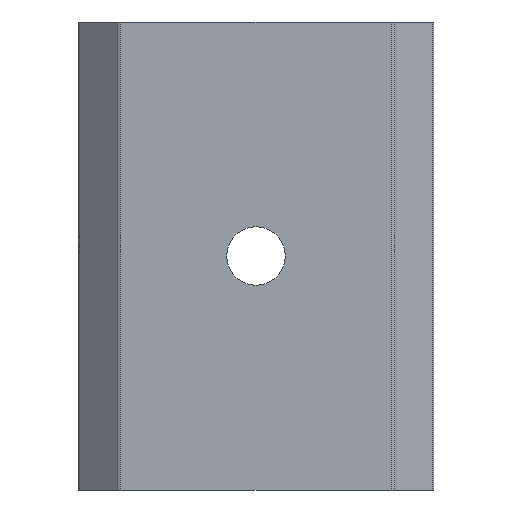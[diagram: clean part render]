
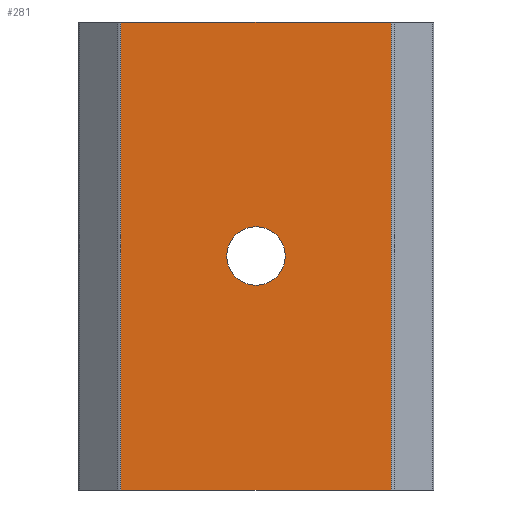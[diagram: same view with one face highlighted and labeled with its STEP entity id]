
A CAD part, left-side view. The second image highlights one B-rep face of the part: STEP entity #281.
In plain terms, the highlighted planar face has unit normal (-1, 0, 0).
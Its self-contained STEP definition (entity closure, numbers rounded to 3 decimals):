
#39 = DIRECTION ( 'NONE',  ( 0., 1., 0. ) ) ;
#40 = CARTESIAN_POINT ( 'NONE',  ( -5.6, 0., 0. ) ) ;
#41 = AXIS2_PLACEMENT_3D ( 'NONE', #409, #79, #81 ) ;
#42 = ORIENTED_EDGE ( 'NONE', *, *, #223, .F. ) ;
#44 = DIRECTION ( 'NONE',  ( 0., -1., 0. ) ) ;
#70 = CARTESIAN_POINT ( 'NONE',  ( -5.6, -11.549, 20. ) ) ;
#79 = DIRECTION ( 'NONE',  ( -1., 0., 0. ) ) ;
#81 = DIRECTION ( 'NONE',  ( 0., 0., 1. ) ) ;
#87 = VERTEX_POINT ( 'NONE', #129 ) ;
#88 = VERTEX_POINT ( 'NONE', #624 ) ;
#119 = EDGE_CURVE ( 'NONE', #267, #398, #162, .T. ) ;
#129 = CARTESIAN_POINT ( 'NONE',  ( -5.6, 0., -2.5 ) ) ;
#138 = VECTOR ( 'NONE', #44, 1000. ) ;
#146 = ORIENTED_EDGE ( 'NONE', *, *, #641, .T. ) ;
#161 = ORIENTED_EDGE ( 'NONE', *, *, #705, .F. ) ;
#162 = LINE ( 'NONE', #461, #585 ) ;
#167 = AXIS2_PLACEMENT_3D ( 'NONE', #40, #703, #696 ) ;
#180 = DIRECTION ( 'NONE',  ( 0., 0., -1. ) ) ;
#197 = DIRECTION ( 'NONE',  ( 1., 0., 0. ) ) ;
#201 = PLANE ( 'NONE',  #253 ) ;
#217 = VECTOR ( 'NONE', #233, 1000. ) ;
#218 = VERTEX_POINT ( 'NONE', #362 ) ;
#220 = FACE_OUTER_BOUND ( 'NONE', #426, .T. ) ;
#223 = EDGE_CURVE ( 'NONE', #87, #88, #578, .T. ) ;
#224 = ORIENTED_EDGE ( 'NONE', *, *, #386, .T. ) ;
#233 = DIRECTION ( 'NONE',  ( 0., 0., -1. ) ) ;
#253 = AXIS2_PLACEMENT_3D ( 'NONE', #695, #197, #39 ) ;
#267 = VERTEX_POINT ( 'NONE', #363 ) ;
#281 = ADVANCED_FACE ( 'NONE', ( #435, #220 ), #201, .F. ) ;
#292 = ORIENTED_EDGE ( 'NONE', *, *, #119, .F. ) ;
#350 = LINE ( 'NONE', #70, #217 ) ;
#362 = CARTESIAN_POINT ( 'NONE',  ( -5.6, 11.549, -20. ) ) ;
#363 = CARTESIAN_POINT ( 'NONE',  ( -5.6, 11.549, 20. ) ) ;
#386 = EDGE_CURVE ( 'NONE', #218, #557, #443, .T. ) ;
#394 = VECTOR ( 'NONE', #180, 1000. ) ;
#398 = VERTEX_POINT ( 'NONE', #431 ) ;
#409 = CARTESIAN_POINT ( 'NONE',  ( -5.6, 0., 0. ) ) ;
#426 = EDGE_LOOP ( 'NONE', ( #224, #161, #292, #146 ) ) ;
#431 = CARTESIAN_POINT ( 'NONE',  ( -5.6, -11.549, 20. ) ) ;
#435 = FACE_BOUND ( 'NONE', #583, .T. ) ;
#440 = CARTESIAN_POINT ( 'NONE',  ( -5.6, -11.549, -20. ) ) ;
#443 = LINE ( 'NONE', #656, #138 ) ;
#458 = DIRECTION ( 'NONE',  ( 0., -1., 0. ) ) ;
#461 = CARTESIAN_POINT ( 'NONE',  ( -5.6, 11.549, 20. ) ) ;
#488 = LINE ( 'NONE', #612, #394 ) ;
#557 = VERTEX_POINT ( 'NONE', #440 ) ;
#578 = CIRCLE ( 'NONE', #167, 2.5 ) ;
#583 = EDGE_LOOP ( 'NONE', ( #591, #42 ) ) ;
#585 = VECTOR ( 'NONE', #458, 1000. ) ;
#591 = ORIENTED_EDGE ( 'NONE', *, *, #706, .F. ) ;
#612 = CARTESIAN_POINT ( 'NONE',  ( -5.6, 11.549, 20. ) ) ;
#624 = CARTESIAN_POINT ( 'NONE',  ( -5.6, 0., 2.5 ) ) ;
#641 = EDGE_CURVE ( 'NONE', #267, #218, #488, .T. ) ;
#656 = CARTESIAN_POINT ( 'NONE',  ( -5.6, 11.549, -20. ) ) ;
#695 = CARTESIAN_POINT ( 'NONE',  ( -5.6, 11.549, 20. ) ) ;
#696 = DIRECTION ( 'NONE',  ( 0., 0., 1. ) ) ;
#703 = DIRECTION ( 'NONE',  ( -1., 0., 0. ) ) ;
#705 = EDGE_CURVE ( 'NONE', #398, #557, #350, .T. ) ;
#706 = EDGE_CURVE ( 'NONE', #88, #87, #715, .T. ) ;
#715 = CIRCLE ( 'NONE', #41, 2.5 ) ;
